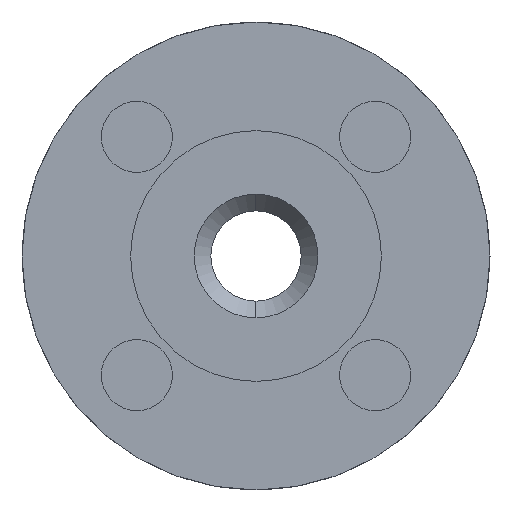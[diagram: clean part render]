
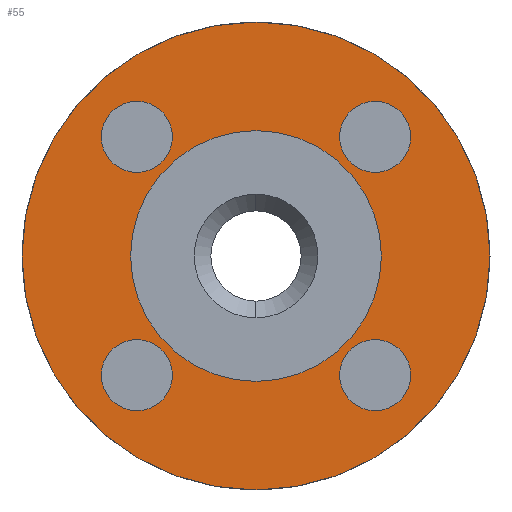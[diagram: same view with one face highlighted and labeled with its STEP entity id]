
A CAD part, left-side view. The second image highlights one B-rep face of the part: STEP entity #55.
In plain terms, the highlighted planar face has unit normal (-1, 0, 0).
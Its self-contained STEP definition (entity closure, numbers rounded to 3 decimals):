
#55=ADVANCED_FACE('',(#315,#316,#317,#318,#319,#320),#314,.F.);
#314=PLANE('',#1314);
#315=FACE_OUTER_BOUND('',#1315,.T.);
#316=FACE_BOUND('',#1316,.T.);
#317=FACE_BOUND('',#1317,.T.);
#318=FACE_BOUND('',#1318,.T.);
#319=FACE_BOUND('',#1319,.T.);
#320=FACE_BOUND('',#1320,.T.);
#1311=CARTESIAN_POINT('',(1.,-118.253,72.5));
#1312=DIRECTION('',(1.,0.,0.));
#1313=DIRECTION('',(0.,0.,-1.));
#1314=AXIS2_PLACEMENT_3D('',#1311,#1312,#1313);
#1315=EDGE_LOOP('',(#2246,#2247));
#1316=EDGE_LOOP('',(#2248,#2249));
#1317=EDGE_LOOP('',(#2250,#2251));
#1318=EDGE_LOOP('',(#2252,#2253));
#1319=EDGE_LOOP('',(#2254,#2255));
#1320=EDGE_LOOP('',(#2256,#2257));
#2246=ORIENTED_EDGE('',*,*,#2722,.T.);
#2247=ORIENTED_EDGE('',*,*,#2723,.T.);
#2248=ORIENTED_EDGE('',*,*,#2724,.F.);
#2249=ORIENTED_EDGE('',*,*,#2725,.F.);
#2250=ORIENTED_EDGE('',*,*,#2726,.F.);
#2251=ORIENTED_EDGE('',*,*,#2727,.F.);
#2252=ORIENTED_EDGE('',*,*,#2728,.F.);
#2253=ORIENTED_EDGE('',*,*,#2729,.F.);
#2254=ORIENTED_EDGE('',*,*,#2730,.F.);
#2255=ORIENTED_EDGE('',*,*,#2731,.F.);
#2256=ORIENTED_EDGE('',*,*,#2732,.F.);
#2257=ORIENTED_EDGE('',*,*,#2733,.F.);
#2722=EDGE_CURVE('',#3416,#3417,#3418,.T.);
#2723=EDGE_CURVE('',#3417,#3416,#3424,.T.);
#2724=EDGE_CURVE('',#3430,#3431,#3432,.T.);
#2725=EDGE_CURVE('',#3431,#3430,#3438,.T.);
#2726=EDGE_CURVE('',#3444,#3445,#3446,.T.);
#2727=EDGE_CURVE('',#3445,#3444,#3452,.T.);
#2728=EDGE_CURVE('',#3458,#3459,#3460,.T.);
#2729=EDGE_CURVE('',#3459,#3458,#3466,.T.);
#2730=EDGE_CURVE('',#3472,#3473,#3474,.T.);
#2731=EDGE_CURVE('',#3473,#3472,#3480,.T.);
#2732=EDGE_CURVE('',#3486,#3487,#3488,.T.);
#2733=EDGE_CURVE('',#3487,#3486,#3494,.T.);
#3416=VERTEX_POINT('',#4830);
#3417=VERTEX_POINT('',#4831);
#3418=CIRCLE('',#4835,62.5);
#3424=CIRCLE('',#4839,62.5);
#3430=VERTEX_POINT('',#4840);
#3431=VERTEX_POINT('',#4841);
#3432=CIRCLE('',#4845,9.5);
#3438=CIRCLE('',#4849,9.5);
#3444=VERTEX_POINT('',#4850);
#3445=VERTEX_POINT('',#4851);
#3446=CIRCLE('',#4855,9.5);
#3452=CIRCLE('',#4859,9.5);
#3458=VERTEX_POINT('',#4860);
#3459=VERTEX_POINT('',#4861);
#3460=CIRCLE('',#4865,9.5);
#3466=CIRCLE('',#4869,9.5);
#3472=VERTEX_POINT('',#4870);
#3473=VERTEX_POINT('',#4871);
#3474=CIRCLE('',#4875,33.5);
#3480=CIRCLE('',#4879,33.5);
#3486=VERTEX_POINT('',#4880);
#3487=VERTEX_POINT('',#4881);
#3488=CIRCLE('',#4885,9.5);
#3494=CIRCLE('',#4889,9.5);
#4830=CARTESIAN_POINT('',(1.,0.,62.5));
#4831=CARTESIAN_POINT('',(1.,0.,-62.5));
#4832=CARTESIAN_POINT('',(1.,0.,0.));
#4833=DIRECTION('',(-1.,0.,0.));
#4834=DIRECTION('',(0.,0.,1.));
#4835=AXIS2_PLACEMENT_3D('',#4832,#4833,#4834);
#4836=CARTESIAN_POINT('',(1.,0.,0.));
#4837=DIRECTION('',(-1.,0.,0.));
#4838=DIRECTION('',(0.,0.,1.));
#4839=AXIS2_PLACEMENT_3D('',#4836,#4837,#4838);
#4840=CARTESIAN_POINT('',(1.,-31.82,-22.32));
#4841=CARTESIAN_POINT('',(1.,-31.82,-41.32));
#4842=CARTESIAN_POINT('',(1.,-31.82,-31.82));
#4843=DIRECTION('',(-1.,0.,0.));
#4844=DIRECTION('',(0.,0.,-1.));
#4845=AXIS2_PLACEMENT_3D('',#4842,#4843,#4844);
#4846=CARTESIAN_POINT('',(1.,-31.82,-31.82));
#4847=DIRECTION('',(-1.,0.,0.));
#4848=DIRECTION('',(0.,0.,-1.));
#4849=AXIS2_PLACEMENT_3D('',#4846,#4847,#4848);
#4850=CARTESIAN_POINT('',(1.,31.82,-22.32));
#4851=CARTESIAN_POINT('',(1.,31.82,-41.32));
#4852=CARTESIAN_POINT('',(1.,31.82,-31.82));
#4853=DIRECTION('',(-1.,0.,0.));
#4854=DIRECTION('',(0.,0.,-1.));
#4855=AXIS2_PLACEMENT_3D('',#4852,#4853,#4854);
#4856=CARTESIAN_POINT('',(1.,31.82,-31.82));
#4857=DIRECTION('',(-1.,0.,0.));
#4858=DIRECTION('',(0.,0.,-1.));
#4859=AXIS2_PLACEMENT_3D('',#4856,#4857,#4858);
#4860=CARTESIAN_POINT('',(1.,31.82,41.32));
#4861=CARTESIAN_POINT('',(1.,31.82,22.32));
#4862=CARTESIAN_POINT('',(1.,31.82,31.82));
#4863=DIRECTION('',(-1.,0.,0.));
#4864=DIRECTION('',(0.,0.,-1.));
#4865=AXIS2_PLACEMENT_3D('',#4862,#4863,#4864);
#4866=CARTESIAN_POINT('',(1.,31.82,31.82));
#4867=DIRECTION('',(-1.,0.,0.));
#4868=DIRECTION('',(0.,0.,-1.));
#4869=AXIS2_PLACEMENT_3D('',#4866,#4867,#4868);
#4870=CARTESIAN_POINT('',(1.,0.,-33.5));
#4871=CARTESIAN_POINT('',(1.,0.,33.5));
#4872=CARTESIAN_POINT('',(1.,0.,0.));
#4873=DIRECTION('',(-1.,0.,0.));
#4874=DIRECTION('',(0.,0.,1.));
#4875=AXIS2_PLACEMENT_3D('',#4872,#4873,#4874);
#4876=CARTESIAN_POINT('',(1.,0.,0.));
#4877=DIRECTION('',(-1.,0.,0.));
#4878=DIRECTION('',(0.,0.,1.));
#4879=AXIS2_PLACEMENT_3D('',#4876,#4877,#4878);
#4880=CARTESIAN_POINT('',(1.,-31.82,41.32));
#4881=CARTESIAN_POINT('',(1.,-31.82,22.32));
#4882=CARTESIAN_POINT('',(1.,-31.82,31.82));
#4883=DIRECTION('',(-1.,0.,0.));
#4884=DIRECTION('',(0.,0.,-1.));
#4885=AXIS2_PLACEMENT_3D('',#4882,#4883,#4884);
#4886=CARTESIAN_POINT('',(1.,-31.82,31.82));
#4887=DIRECTION('',(-1.,0.,0.));
#4888=DIRECTION('',(0.,0.,-1.));
#4889=AXIS2_PLACEMENT_3D('',#4886,#4887,#4888);
